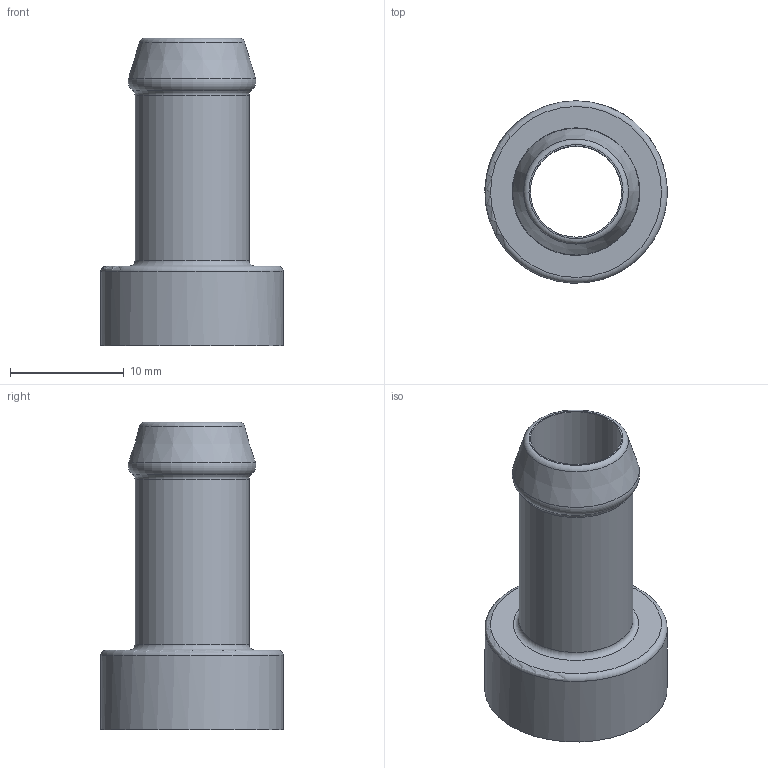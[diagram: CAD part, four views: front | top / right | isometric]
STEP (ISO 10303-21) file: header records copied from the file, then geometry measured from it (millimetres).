
FILE_DESCRIPTION(/* description */ (''),/* implementation_level */ '2;1');
FILE_NAME(/* name */ 'ET039863.a.stp',/* time_stamp */ '2024-09-16T11:04:02+02:00',/* author */ (''),/* organization */ (''),/* preprocessor_version */ 'ST-DEVELOPER v15',/* originating_system */ 'SIEMENS PLM Software NX 9.0',/* authorisation */ '');
FILE_SCHEMA (('AP203_CONFIGURATION_CONTROLLED_3D_DESIGN_OF_MECHANICAL_PARTS_AND_ASSEMBLIES_MIM_LF { 1 0 10303 403 2 1 2}'));
Length unit declared in the file: millimetre
Products named in the file (1): Chri10FCE843wawh
Bounding box: 15.99 x 15.99 x 27 mm (x, y, z)
Volume: 1007.8 mm3; surface area: 2051.7 mm2
Topology: 1 solids, 1 shells, 15 faces, 32 edges, 21 vertices
Faces by surface type: torus 6, cylinder 4, plane 4, cone 1
Full cylindrical faces by diameter (mm): 8 x1, 10 x1, 14.1 x1, 16 x1
Entity records: 502 total; most frequent: DIRECTION 62, CARTESIAN_POINT 46, AXIS2_PLACEMENT_3D 31, FACE_BOUND 30, EDGE_LOOP 30, ORIENTED_EDGE 30, ADVANCED_FACE 15, VERTEX_POINT 15
